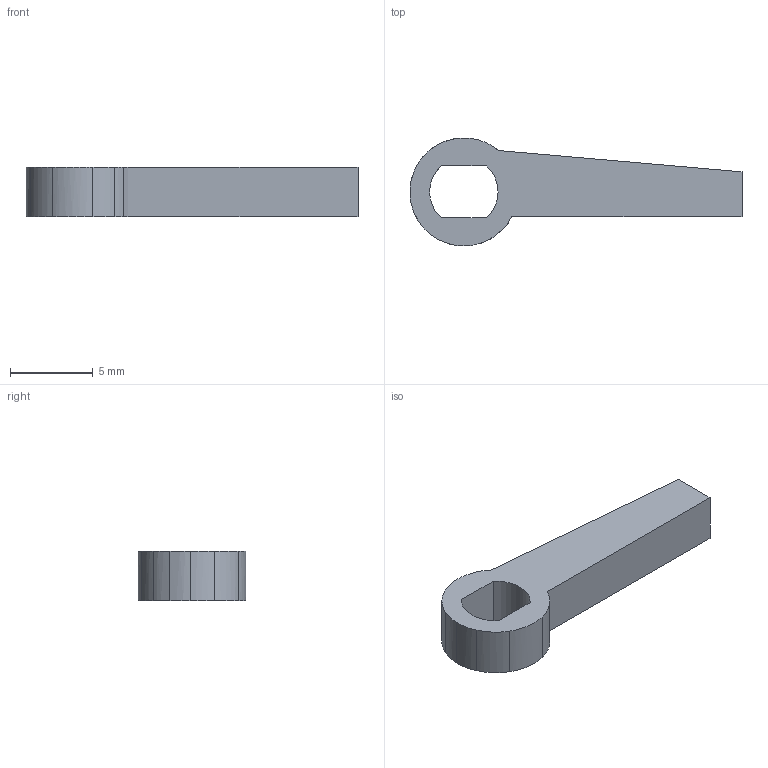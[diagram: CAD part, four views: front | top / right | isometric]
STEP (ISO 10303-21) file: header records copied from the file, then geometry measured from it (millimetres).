
FILE_DESCRIPTION(/* description */ ('','CAx-IF Rec.Pracs.---Representation and Presentation of Product Manufacturing Information (PMI)---4.0---2014-10-13'),/* implementation_level */ '2;1');
FILE_NAME(/* name */ 'Safety.step',/* time_stamp */ '2024-11-25T07:47:05+01:00',/* author */ (''),/* organization */ (''),/* preprocessor_version */ 'ST-DEVELOPER v20',/* originating_system */ 'Autodesk Translation Framework v13.20.0.188',/* authorisation */ '');
FILE_SCHEMA (('AP242_MANAGED_MODEL_BASED_3D_ENGINEERING_MIM_LF { 1 0 10303 442 1 1 4 }'));
Length unit declared in the file: millimetre
Products named in the file (1): (Nicht gespeichert)
Bounding box: 20.05 x 6.52 x 3 mm (x, y, z)
Volume: 202.6 mm3; surface area: 315 mm2
Topology: 1 solids, 1 shells, 21 faces, 59 edges, 40 vertices
Faces by surface type: bspline 13, plane 8
Entity records: 892 total; most frequent: CARTESIAN_POINT 414, ORIENTED_EDGE 118, EDGE_CURVE 59, DIRECTION 43, VERTEX_POINT 40, B_SPLINE_CURVE_WITH_KNOTS 34, LINE 25, VECTOR 25
